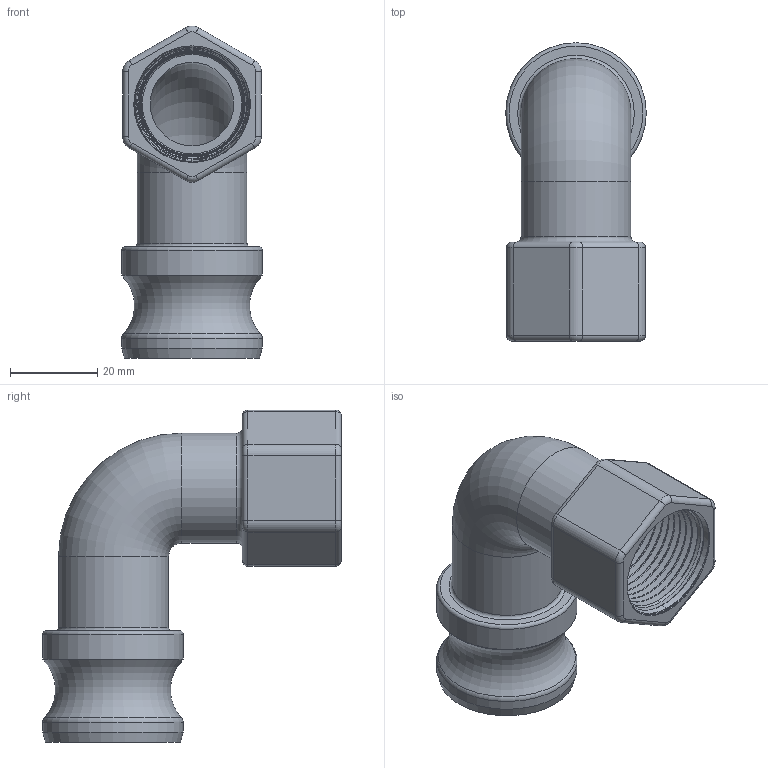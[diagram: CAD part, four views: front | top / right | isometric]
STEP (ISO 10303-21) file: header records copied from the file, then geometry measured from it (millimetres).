
FILE_DESCRIPTION(/* description */ ('Alibre Inc.'),/* implementation_level */ '2;1');
FILE_NAME(/* name */ 'export0',/* time_stamp */ '2016-11-29T11:39:00-05:00',/* author */ (''),/* organization */ (''),/* preprocessor_version */ 'ST-DEVELOPER v14',/* originating_system */ 'Alibre',/* authorisation */ '');
FILE_SCHEMA (('CONFIG_CONTROL_DESIGN'));
Length unit declared in the file: centimetre
Products named in the file (1): ID_2
Bounding box: 32.11 x 68.26 x 75.9 mm (x, y, z)
Volume: 30085.9 mm3; surface area: 18325.5 mm2
Topology: 1 solids, 1 shells, 94 faces, 231 edges, 142 vertices
Faces by surface type: cone 36, cylinder 25, torus 19, plane 11, bspline 3
Full cylindrical faces by diameter (mm): 19.05 x2, 21.209 x1, 25.146 x2, 32.106 x2
Entity records: 24723 total; most frequent: CARTESIAN_POINT 22631, ORIENTED_EDGE 418, DIRECTION 370, EDGE_CURVE 209, AXIS2_PLACEMENT_3D 167, VERTEX_POINT 138, EDGE_LOOP 117, FACE_BOUND 117
